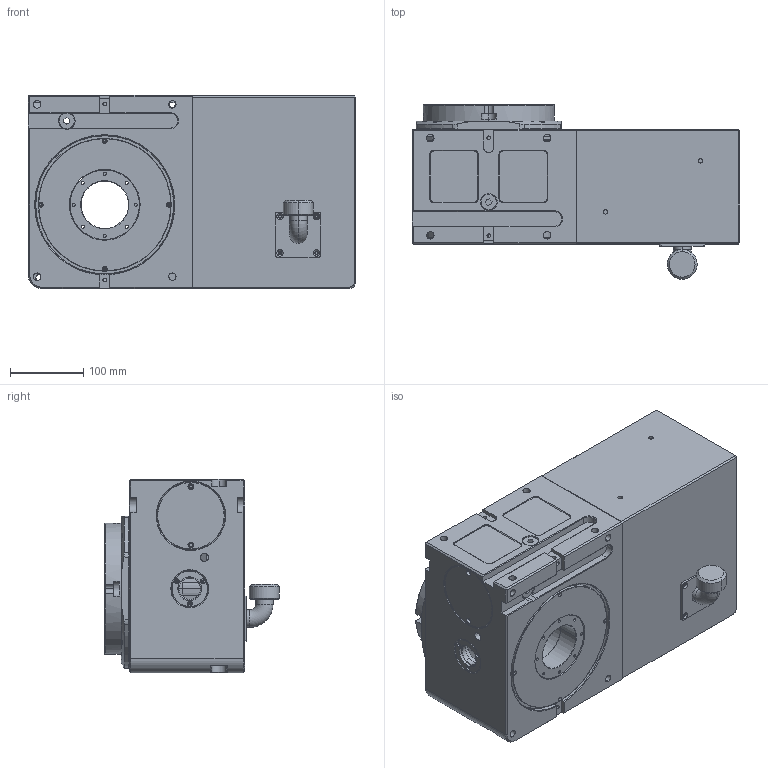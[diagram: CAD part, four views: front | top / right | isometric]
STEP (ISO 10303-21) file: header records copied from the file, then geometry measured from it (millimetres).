
FILE_DESCRIPTION (( 'STEP AP203' ), '1' );
FILE_NAME ('WDS-C180 喜渡俋夤芞 REV.01.STEP', '2021-02-27T03:50:59', ( '' ), ( '' ), 'SwSTEP 2.0', 'SolidWorks 2018', '' );
FILE_SCHEMA (( 'CONFIG_CONTROL_DESIGN' ));
Length unit declared in the file: centimetre
Products named in the file (1): WDS-C180 喜渡俋夤芞 REV.01
Bounding box: 449 x 239 x 265 mm (x, y, z)
Surface area: 808823.9 mm2 (no closed solid volume)
Topology: 0 solids, 27 shells, 625 faces, 1880 edges, 1282 vertices
Faces by surface type: cylinder 250, plane 206, cone 145, torus 20, bspline 4
Entity records: 23877 total; most frequent: CARTESIAN_POINT 6486, DIRECTION 3878, ORIENTED_EDGE 3225, EDGE_CURVE 1880, AXIS2_PLACEMENT_3D 1496, VERTEX_POINT 1282, LINE 886, VECTOR 886
